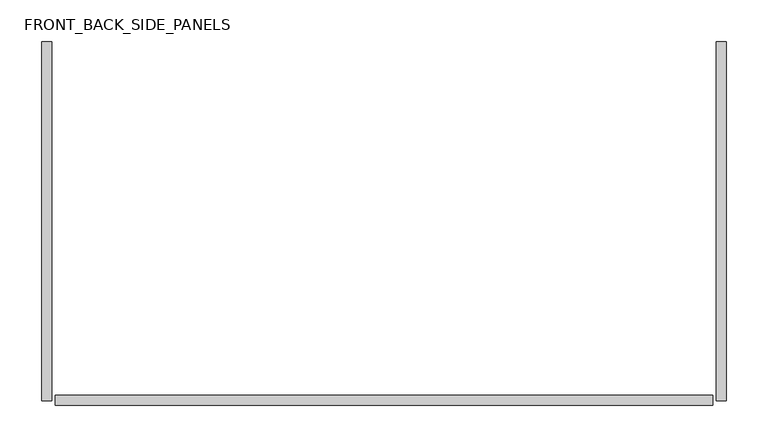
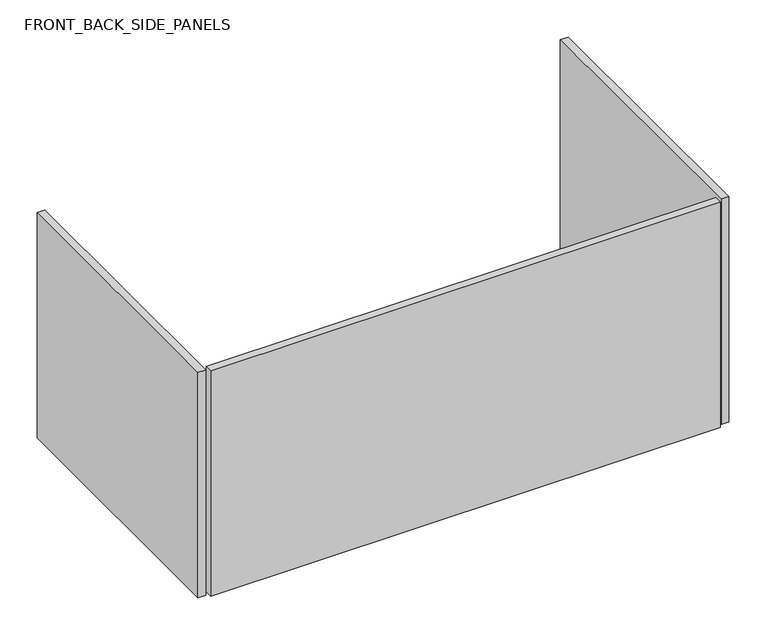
"""IFC4 building model written with IfcOpenShell, lengths in millimetres: furniture geometry, FRONT_BACK_SIDE_PANELS : 800mmW_BACK_&_SIDE_PANELS."""

from ifc_helpers import new_model, si_unit, frame, origin, place, context, project, spatial, polyline, outline, extrude, source, transform, mapped, element, save


def front_back_side_panels_1debe089(model_context):
    return source(origin(), model_context, "Body", "SweptSolid", [
        extrude(outline(polyline([(412.0, 214.7757931), (412.0, -217.1931665), (400.0, -217.1931665), (400.0, 214.7757931), (412.0, 214.7757931)])), frame((0.0, 0.0, 808.0), z_axis=(0.0, 0.0, 1.0), x_axis=(1.0, 0.0, 0.0)), (0.0, 0.0, 1.0), 370.0),
        extrude(outline(polyline([(-400.0, 214.7757931), (-400.0, -217.1931665), (-412.0, -217.1931665), (-412.0, 214.7757931), (-400.0, 214.7757931)])), frame((0.0, 0.0, 808.0), z_axis=(0.0, 0.0, 1.0), x_axis=(1.0, 0.0, 0.0)), (0.0, 0.0, 1.0), 370.0),
        extrude(outline(polyline([(395.4939356, -222.7282814), (-395.4939356, -222.7282814), (-395.4939356, -210.7282814), (395.4939356, -210.7282814), (395.4939356, -222.7282814)])), frame((0.0, 0.0, 808.0), z_axis=(0.0, 0.0, 1.0), x_axis=(1.0, 0.0, 0.0)), (0.0, 0.0, 1.0), 370.0),
    ])


if __name__ == "__main__":
    model = new_model("IFC4")
    model_context = context("Model", 3, world=origin())
    ifc_project = project(units=[si_unit("LENGTHUNIT", "METRE", prefix="MILLI")], contexts=[model_context])
    site = spatial("IfcSite", under=ifc_project)
    building = spatial("IfcBuilding", under=site)
    placement = place(None, origin())
    front_back_side_panels_shape = front_back_side_panels_1debe089(model_context)
    element("IfcFurniture", 1, ObjectType="FRONT_BACK_SIDE_PANELS : 800mmW_BACK_&_SIDE_PANELS", at=placement, inside=building, context=model_context, shape_type="MappedRepresentation", body=[
        mapped(front_back_side_panels_shape, transform((0.0, 0.0, 0.0), x_axis=(1.0, 0.0, 0.0), y_axis=(0.0, 1.0, 0.0), z_axis=(0.0, 0.0, 1.0))),
    ])
    save(model, "model.ifc")
